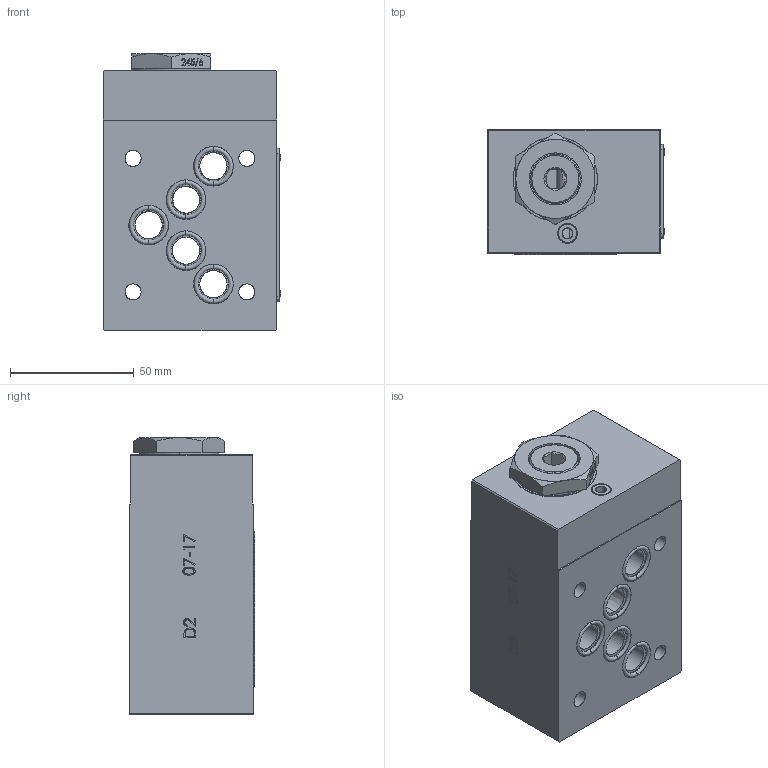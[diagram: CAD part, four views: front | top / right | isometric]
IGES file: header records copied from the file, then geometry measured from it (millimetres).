
Start section: SolidWorks IGES file using analytic representation for surfaces
Global section: file name: C:\Users\pc-te25\Desktop\357-6-A-05.IGS; native system: SolidWorks 2018; preprocessor: SolidWorks 2018; author: pc-te25; date: 191204.085013; units: millimetre
Bounding box: 71.66 x 50.58 x 111.8 mm (x, y, z)
Surface area: 49576.4 mm2 (no closed solid volume)
Topology: 0 solids, 0 shells, 723 faces, 13356 edges, 13356 vertices
Faces by surface type: bspline 592, revolution 131
